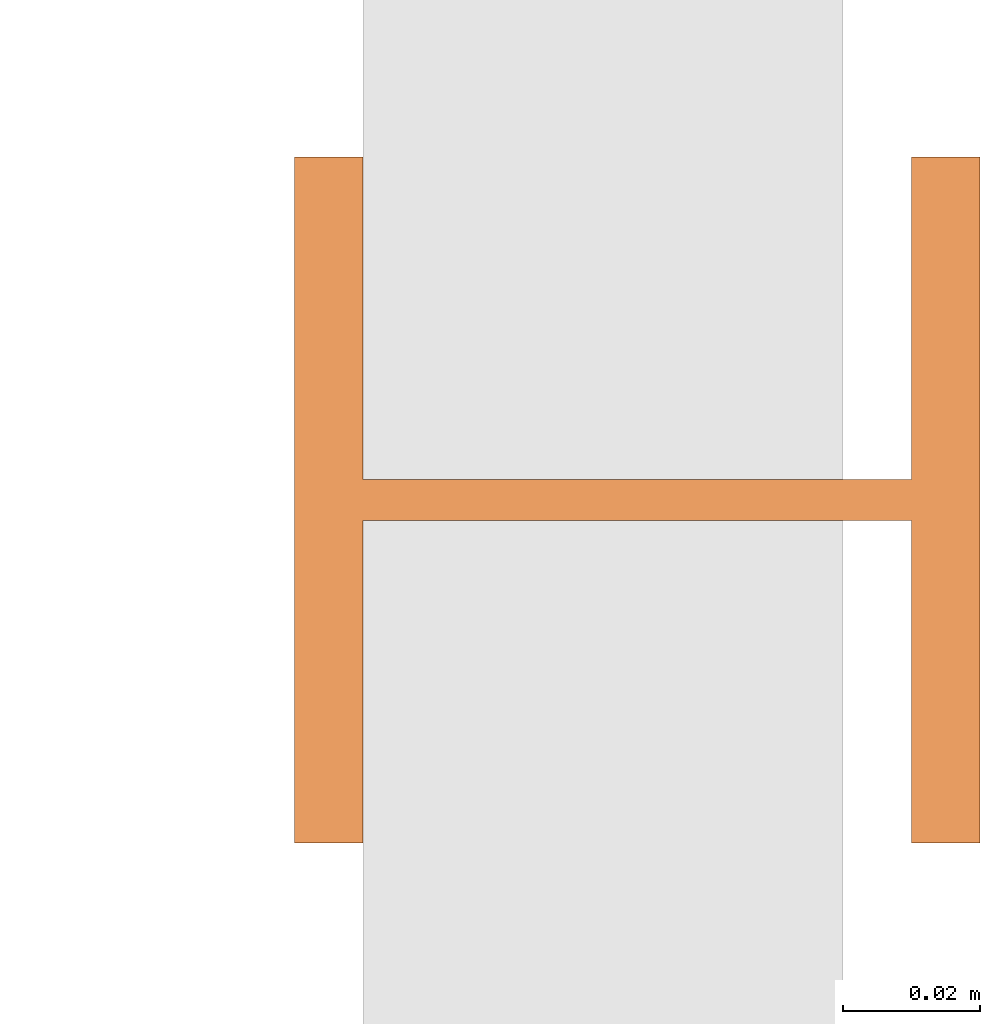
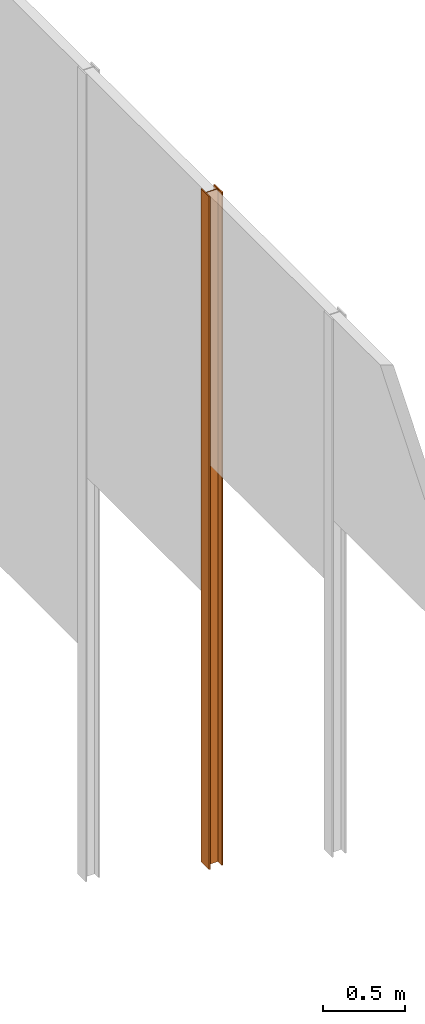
# One storey, part 4 of 4: 1 proxy.
"""IFC4 building model written with IfcOpenShell, lengths in metres."""

import ifcopenshell
import ifcopenshell.guid

model = None  # the IFC model being written
_history = None  # IfcOwnerHistory: only IFC2X3 demands one
_inside = {}  # id of a spatial element -> (the spatial element, [elements in it])
_under = {}  # id of a project, library or spatial element -> (it, [spatial elements below it])
_declared = {}  # id of a project -> (the project, [libraries it declares])
_typed = {}  # id of a type object -> (the type object, [elements of that type])
_made_of = {}  # id of a material, layer set ... -> (it, [elements and type objects made of it])


def new_model(schema):
    """Start an empty IFC model of exactly this schema.

    Asked for "IFC4X3", IfcOpenShell would pick the latest addendum, in which some entities
    have other attributes; the version numbers below select the first issue.
    IFC2X3 requires an IfcOwnerHistory on every rooted entity: one is made here for all.
    """
    global model, _history
    if schema == "IFC4X3":
        model = ifcopenshell.file(schema_version=(4, 3, 0, 0))
    else:
        model = ifcopenshell.file(schema=schema)
    _inside.clear()
    _under.clear()
    _declared.clear()
    _typed.clear()
    _made_of.clear()
    _history = None
    if model.schema == "IFC2X3":
        org = make("IfcOrganization", Name="unknown")
        user = make(
            "IfcPersonAndOrganization",
            ThePerson=make("IfcPerson", FamilyName="unknown"),
            TheOrganization=org,
        )
        app = make(
            "IfcApplication",
            ApplicationDeveloper=org,
            Version="unknown",
            ApplicationFullName="unknown",
            ApplicationIdentifier="unknown",
        )
        _history = make(
            "IfcOwnerHistory",
            OwningUser=user,
            OwningApplication=app,
            ChangeAction="ADDED",
            CreationDate=0,
        )
    return model


def make(cls, **values):
    """One entity of the class cls with the attributes given. An attribute that is None is left unset."""
    return model.create_entity(
        cls, **{name: value for name, value in values.items() if value is not None}
    )


def entity(cls, *values):
    """Any entity or typed value of the class cls, its attributes in the order of the schema. None: left unset."""
    e = model.create_entity(cls)
    for i, value in enumerate(values):
        if value is not None:
            e[i] = value
    return e


def rooted(cls, **values):
    """An entity with a GlobalId (a new one), such as an element, a storey or a relation."""
    return make(cls, GlobalId=ifcopenshell.guid.new(), OwnerHistory=_history, **values)


def si_unit(unit_type, name, prefix=None):
    """IfcSIUnit, for example si_unit("LENGTHUNIT", "METRE", prefix="MILLI")."""
    return make("IfcSIUnit", UnitType=unit_type, Prefix=prefix, Name=name)


def converted_unit(unit_type, name, factor, base, dimensions=None, offset=None):
    """IfcConversionBasedUnit, such as the inch: factor (a typed value) times the base unit."""
    return make(
        "IfcConversionBasedUnit"
        if offset is None
        else "IfcConversionBasedUnitWithOffset",
        ConversionOffset=offset,
        Dimensions=None
        if dimensions is None
        else entity("IfcDimensionalExponents", *dimensions),
        UnitType=unit_type,
        Name=name,
        ConversionFactor=make(
            "IfcMeasureWithUnit", ValueComponent=factor, UnitComponent=base
        ),
    )


def derived_unit(unit_type, elements):
    """IfcDerivedUnit: a product of units, each with its exponent."""
    return make(
        "IfcDerivedUnit",
        Elements=[
            make("IfcDerivedUnitElement", Unit=unit, Exponent=power)
            for unit, power in elements
        ],
        UnitType=unit_type,
    )


def assignment(units):
    """IfcUnitAssignment: the units of a project."""
    return None if units is None else make("IfcUnitAssignment", Units=units)


def point(xyz):
    """IfcCartesianPoint."""
    return None if xyz is None else make("IfcCartesianPoint", Coordinates=xyz)


def direction(xyz):
    """IfcDirection."""
    return None if xyz is None else make("IfcDirection", DirectionRatios=xyz)


def frame(location, z_axis=None, x_axis=None):
    """IfcAxis2Placement3D, a coordinate frame: its origin and axes. An axis left out is left unset."""
    return make(
        "IfcAxis2Placement3D",
        Location=point(location),
        Axis=direction(z_axis),
        RefDirection=direction(x_axis),
    )


def origin():
    """The frame at (0, 0, 0) with its axes left unset."""
    return frame((0.0, 0.0, 0.0))


def origin_with_axes():
    """The frame at (0, 0, 0) with the z axis (0, 0, 1) and the x axis (1, 0, 0) written out."""
    return frame((0.0, 0.0, 0.0), z_axis=(0.0, 0.0, 1.0), x_axis=(1.0, 0.0, 0.0))


def place(relative_to, where):
    """IfcLocalPlacement: puts the frame where relative to a parent placement (None: the world)."""
    return make(
        "IfcLocalPlacement", PlacementRelTo=relative_to, RelativePlacement=where
    )


def context(
    kind, dimensions, precision=None, world=None, true_north=None, identifier=None
):
    """IfcGeometricRepresentationContext, for example the 3D "Model" context."""
    return make(
        "IfcGeometricRepresentationContext",
        ContextIdentifier=identifier,
        ContextType=kind,
        CoordinateSpaceDimension=dimensions,
        Precision=precision,
        WorldCoordinateSystem=world,
        TrueNorth=true_north,
    )


def subcontext(parent, identifier, kind, view, scale=None):
    """IfcGeometricRepresentationSubContext, for example "Body" below "Model"."""
    return make(
        "IfcGeometricRepresentationSubContext",
        ContextIdentifier=identifier,
        ContextType=kind,
        ParentContext=parent,
        TargetScale=scale,
        TargetView=view,
    )


def project(units=None, contexts=None):
    """IfcProject with its units and contexts."""
    return rooted(
        "IfcProject",
        Name="project",
        RepresentationContexts=contexts,
        UnitsInContext=assignment(units),
    )


def spatial(cls, under=None, at=None, **own):
    """A site, building, storey or space (cls), placed at a placement, below another one or the project."""
    s = rooted(cls, ObjectPlacement=at, **own)
    if under is not None:
        _under.setdefault(under.id(), (under, []))[1].append(s)
    return s


def faces_of(points, faces, orient=None, outer=None):
    """IfcFace entities. A face is a list of loops; a loop is a list of indices into points, from 0.

    orient and outer hold one flag for each loop. By default every Orientation is true, the
    first loop of a face is its IfcFaceOuterBound and the others are IfcFaceBound.
    """
    made = []
    for i, loops in enumerate(faces):
        bounds = []
        for j, loop in enumerate(loops):
            is_outer = j == 0 if outer is None else outer[i][j]
            bounds.append(
                make(
                    "IfcFaceOuterBound" if is_outer else "IfcFaceBound",
                    Bound=make("IfcPolyLoop", Polygon=[points[k] for k in loop]),
                    Orientation=True if orient is None else orient[i][j],
                )
            )
        made.append(make("IfcFace", Bounds=bounds))
    return made


def faceted_brep(points, faces, orient=None, outer=None, voids=None):
    """IfcFacetedBrep: a solid bounded by flat faces; with voids (closed shells), ...WithVoids."""
    shared = [point(p) for p in points]
    hull = make("IfcClosedShell", CfsFaces=faces_of(shared, faces, orient, outer))
    if voids is None:
        return make("IfcFacetedBrep", Outer=hull)
    return make(
        "IfcFacetedBrepWithVoids",
        Outer=hull,
        Voids=[
            make(cls, CfsFaces=faces_of(shared, fs, o, b)) for cls, fs, o, b in voids
        ],
    )


def shape(context_of_items, identifier, shape_type, items):
    """IfcShapeRepresentation: the items that make up one representation, for example the "Body"."""
    return make(
        "IfcShapeRepresentation",
        ContextOfItems=context_of_items,
        RepresentationIdentifier=identifier,
        RepresentationType=shape_type,
        Items=items,
    )


def source(mapping_origin, context_of_items, identifier, shape_type, items):
    """IfcRepresentationMap: a shape defined once, which mapped items show again and again."""
    return make(
        "IfcRepresentationMap",
        MappingOrigin=mapping_origin,
        MappedRepresentation=shape(context_of_items, identifier, shape_type, items),
    )


def transform(
    local_origin,
    x_axis=None,
    y_axis=None,
    z_axis=None,
    scale=None,
    scale2=None,
    scale3=None,
    uniform=True,
):
    """IfcCartesianTransformationOperator3D, or its non-uniform kind. x_axis, y_axis, z_axis: its Axis1, 2, 3."""
    if uniform:
        return make(
            "IfcCartesianTransformationOperator3D",
            Axis1=direction(x_axis),
            Axis2=direction(y_axis),
            LocalOrigin=point(local_origin),
            Scale=scale,
            Axis3=direction(z_axis),
        )
    return make(
        "IfcCartesianTransformationOperator3DnonUniform",
        Axis1=direction(x_axis),
        Axis2=direction(y_axis),
        LocalOrigin=point(local_origin),
        Scale=scale,
        Axis3=direction(z_axis),
        Scale2=scale2,
        Scale3=scale3,
    )


def mapped(mapping_source, mapping_target):
    """IfcMappedItem: shows the shape of a source again, moved by a transform."""
    return make(
        "IfcMappedItem", MappingSource=mapping_source, MappingTarget=mapping_target
    )


def material(Name=None, Category=None):
    """IfcMaterial."""
    return make("IfcMaterial", Name=Name, Category=Category)


def made_of(thing, what):
    """Note that an element or type object is made of a material, layer set ...; save() writes the relation."""
    if what is not None:
        _made_of.setdefault(what.id(), (what, []))[1].append(thing)
    return thing


def element(
    cls,
    number,
    at=None,
    inside=None,
    cuts=None,
    type_object=None,
    material=None,
    context=None,
    identifier="Body",
    shape_type=None,
    held_by="IfcProductDefinitionShape",
    body=None,
    shapes=None,
    **own,
):
    """One element of the class cls, such as IfcWall. Its Tag is "e" and its number.

    at: its placement. inside: the storey or other place that contains it. cuts: it is an
    opening in that element (IfcRelVoidsElement). A single representation is given by context,
    identifier, shape_type and body (its items); several are given by shapes. held_by: the class
    of the entity that holds the representations. save() writes the other relations.
    """
    e = rooted(cls, Tag="e%d" % number, ObjectPlacement=at, **own)
    if body is not None:
        shapes = [shape(context, identifier, shape_type, body)]
    if shapes is not None:
        e.Representation = make(held_by, Representations=shapes)
    if inside is not None:
        _inside.setdefault(inside.id(), (inside, []))[1].append(e)
    if cuts is not None:
        rooted(
            "IfcRelVoidsElement", RelatingBuildingElement=cuts, RelatedOpeningElement=e
        )
    if type_object is not None:
        _typed.setdefault(type_object.id(), (type_object, []))[1].append(e)
    return made_of(e, material)


def aggregate(whole, parts):
    """IfcRelAggregates: a whole, such as a stair, and the parts it consists of."""
    return rooted("IfcRelAggregates", RelatingObject=whole, RelatedObjects=parts)


def save(model, path):
    """Write the relations noted so far, then the file.

    IfcRelAggregates (storeys below a building ...), IfcRelContainedInSpatialStructure (elements
    in a storey), IfcRelDefinesByType, IfcRelAssociatesMaterial and IfcRelDeclares: one each for
    every whole, place, type object, material and project.
    """
    for whole, parts in _under.values():
        aggregate(whole, parts)
    for where, things in _inside.values():
        rooted(
            "IfcRelContainedInSpatialStructure",
            RelatedElements=things,
            RelatingStructure=where,
        )
    for kind, things in _typed.values():
        rooted("IfcRelDefinesByType", RelatedObjects=things, RelatingType=kind)
    for what, things in _made_of.values():
        rooted("IfcRelAssociatesMaterial", RelatedObjects=things, RelatingMaterial=what)
    for by, libraries in _declared.values():
        rooted("IfcRelDeclares", RelatingContext=by, RelatedDefinitions=libraries)
    model.write(path)


model = new_model("IFC4")

# Units and contexts
model_context = context("Model", 3, precision=1e-05, world=origin())
body_context = subcontext(model_context, "Body", "Model", "MODEL_VIEW")
ifc_project = project(units=[si_unit("LENGTHUNIT", "METRE"), si_unit("AREAUNIT", "SQUARE_METRE"), si_unit("VOLUMEUNIT", "CUBIC_METRE"), si_unit("MASSUNIT", "GRAM", prefix="KILO"), converted_unit("PLANEANGLEUNIT", "DEGREE", entity("IfcPlaneAngleMeasure", 0.0174532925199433), si_unit("PLANEANGLEUNIT", "RADIAN"), dimensions=[0, 0, 0, 0, 0, 0, 0]), derived_unit("THERMALTRANSMITTANCEUNIT", [(si_unit("POWERUNIT", "WATT"), 1), (si_unit("THERMODYNAMICTEMPERATUREUNIT", "KELVIN"), -1), (si_unit("LENGTHUNIT", "METRE"), -2)]), derived_unit("VOLUMETRICFLOWRATEUNIT", [(si_unit("LENGTHUNIT", "METRE"), 3), (converted_unit("TIMEUNIT", "hour", entity("IfcTimeMeasure", 3600.0), si_unit("TIMEUNIT", "SECOND"), dimensions=[0, 0, 1, 0, 0, 0, 0]), -1), (si_unit("LENGTHUNIT", "METRE"), -1)])], contexts=[model_context])

# Site, building, storey
site_placement = place(None, origin())
site = spatial("IfcSite", under=ifc_project, at=site_placement, Name="3. ASŘ", CompositionType="ELEMENT")
building_placement = place(site_placement, origin())
building = spatial("IfcBuilding", under=site, at=building_placement, Name="Pavilon C", CompositionType="ELEMENT")
storey_placement = place(building_placement, origin())
storey = spatial("IfcBuildingStorey", under=building, at=storey_placement, Name="Výkopy", CompositionType="ELEMENT", Elevation=0.0)

# Proxy
ifc_material = material(Name="HEB 100")
shared_shape = source(origin_with_axes(), body_context, "Body", "Brep", [
    faceted_brep([(0.0, 0.0, 0.0), (0.1, 0.0, 0.0), (0.1, 0.00999999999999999, 0.0), (0.053, 0.00999999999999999, 0.0), (0.053, 0.09, 0.0), (0.1, 0.09, 0.0), (0.1, 0.1, 0.0), (0.0, 0.1, 0.0), (0.0, 0.09, 0.0), (0.047, 0.09, 0.0), (0.047, 0.01, 0.0), (0.0, 0.01, 0.0), (0.1, 0.0, 5.0), (0.0, 0.0, 5.0), (0.0, 0.01, 5.0), (0.047, 0.01, 5.0), (0.047, 0.09, 5.0), (0.0, 0.09, 5.0), (0.0, 0.1, 5.0), (0.1, 0.1, 5.0), (0.1, 0.09, 5.0), (0.053, 0.09, 5.0), (0.053, 0.00999999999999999, 5.0), (0.1, 0.00999999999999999, 5.0)], [[[0, 1, 2, 3, 4, 5, 6, 7, 8, 9, 10, 11]], [[12, 13, 14, 15, 16, 17, 18, 19, 20, 21, 22, 23]], [[1, 0, 13, 12]], [[7, 6, 19, 18]], [[8, 7, 18, 17]], [[9, 8, 17, 16]], [[10, 9, 16, 15]], [[11, 10, 15, 14]], [[0, 11, 14, 13]], [[2, 1, 12, 23]], [[3, 2, 23, 22]], [[4, 3, 22, 21]], [[5, 4, 21, 20]], [[6, 5, 20, 19]]], orient=[[False], [False], [False], [False], [False], [False], [False], [False], [False], [False], [False], [False], [False], [False]]),
])
proxy_placement = place(storey_placement, frame((65.8, 2.92500000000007, -4.8), z_axis=(0.0, 0.0, 1.0), x_axis=(-3.67394039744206e-16, -1.0, 0.0)))
element("IfcBuildingElementProxy", 1, at=proxy_placement, inside=storey, material=ifc_material, Name="mz03", context=body_context, shape_type="MappedRepresentation", body=[
    mapped(shared_shape, transform((0.0, 0.0, 0.0), x_axis=(1.0, 0.0, 0.0), y_axis=(0.0, 1.0, 0.0), z_axis=(0.0, 0.0, 1.0), scale=1.0)),
])

save(model, "model.ifc")
